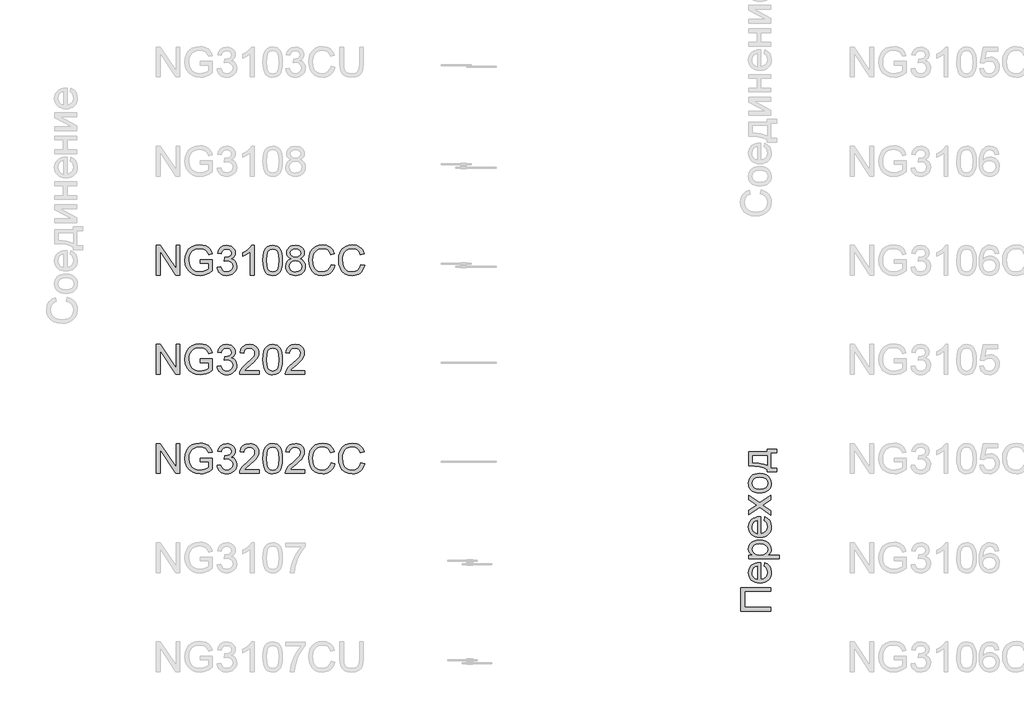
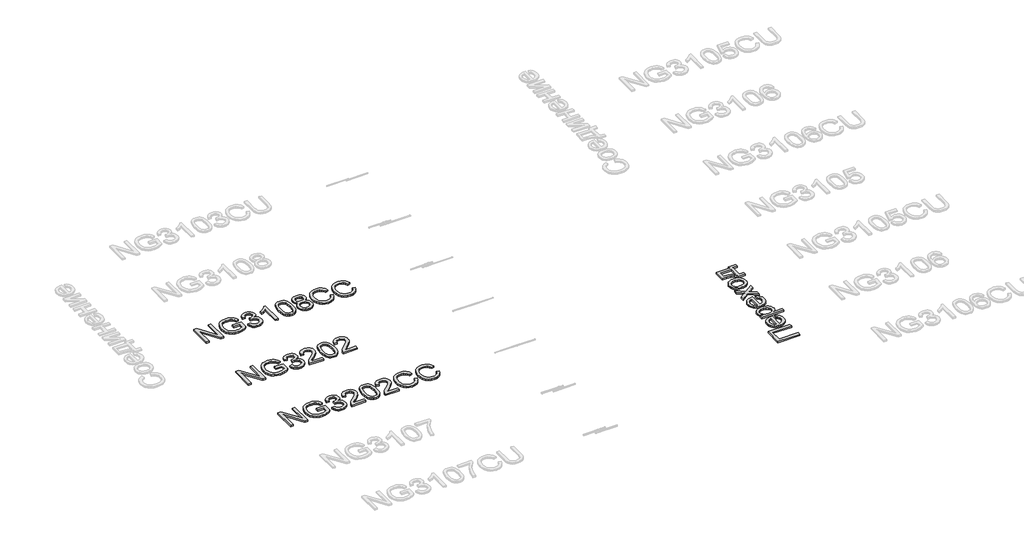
# One storey, part 110 of 124: 4 proxies.
"""IFC4 building model written with IfcOpenShell, lengths in millimetres."""

from ifc_helpers import new_model, si_unit, origin, origin_with_axes, place, context, project, spatial, polyline, outline, extrude, element, save

model = new_model("IFC4")

# Units and contexts
model_context = context("Model", 3, world=origin())
ifc_project = project(units=[si_unit("LENGTHUNIT", "METRE", prefix="MILLI")], contexts=[model_context])

# Site, building, storey
site = spatial("IfcSite", under=ifc_project)
building = spatial("IfcBuilding", under=site)
storey = spatial("IfcBuildingStorey", under=building, Name="Этаж 01", Elevation=0.0)

# Proxies
placement = place(None, origin())
element("IfcBuildingElementProxy", 1, Name="300", ObjectType="300", at=placement, inside=storey, context=model_context, shape_type="SweptSolid", body=[
    extrude(outline(polyline([(49699.8220677, -20519.5141033), (49699.8220677, -20218.1451728), (49740.1419344, -20218.1451728), (49897.5954283, -20456.9005877), (49897.5954283, -20218.1451728), (49935.2665446, -20218.1451728), (49935.2665446, -20519.5141033), (49894.9466779, -20519.5141033), (49737.493184, -20280.685112), (49737.493184, -20519.5141033), (49699.8220677, -20519.5141033)])), origin_with_axes(), (0.0, 0.0, 1.0), 20.0),
    extrude(outline(polyline([(50142.4576843, -20401.7918648), (50142.4576843, -20364.1207485), (50264.8888123, -20364.1207485), (50264.8888123, -20476.7662154), (50235.1363559, -20497.4595776), (50204.4458005, -20512.3036162), (50172.8907223, -20521.2431486), (50140.5446979, -20524.2229928), (50098.2842537, -20519.4865121), (50060.0889056, -20505.27707), (50028.3590835, -20482.0913073), (50005.4952175, -20450.4258646), (49991.6720515, -20412.4420486), (49987.0643295, -20370.301166), (49991.6536574, -20327.8567808), (50005.4216411, -20288.3738457), (50027.7980634, -20255.2552691), (50058.2127074, -20231.9039594), (50095.2584243, -20218.0532023), (50137.5280656, -20213.4362833), (50168.5589118, -20216.1126248), (50196.4627612, -20224.1416493), (50219.9612236, -20236.9439428), (50237.7759092, -20253.9400909), (50250.9552817, -20275.9486313), (50260.5478047, -20303.7881013), (50225.8197444, -20313.5737624), (50218.0666313, -20293.7173317), (50208.6396552, -20278.7353374), (50196.1684556, -20267.4413602), (50179.282672, -20258.6489805), (50159.1503298, -20252.9927948), (50136.9394544, -20251.1073996), (50110.9393944, -20253.1399476), (50088.7101248, -20259.2375917), (50070.3344191, -20268.6369766), (50055.8950508, -20280.5747474), (50036.5076697, -20309.6006368), (50027.6785018, -20338.037915), (50024.7354458, -20368.7560616), (50028.27631, -20404.780906), (50038.8989026, -20434.4229978), (50056.2813269, -20457.4708048), (50080.1016861, -20473.7127949), (50107.9779443, -20483.3421061), (50137.5280656, -20486.5518765), (50163.6200961, -20484.1330524), (50189.0683331, -20476.87658), (50211.1688439, -20466.8793868), (50227.217696, -20456.2384001), (50227.217696, -20401.7918648), (50142.4576843, -20401.7918648)])), origin_with_axes(), (0.0, 0.0, 1.0), 20.0),
    extrude(outline(polyline([(50311.9777077, -20439.4629811), (50349.648824, -20434.7540916), (50358.0825187, -20458.427298), (50370.4341567, -20474.4117707), (50387.3107432, -20483.51685), (50409.3192836, -20486.5518765), (50435.1445997, -20482.3764158), (50455.0838038, -20469.8500339), (50467.8309149, -20451.1616286), (50472.079952, -20428.5000977), (50467.8677031, -20406.988198), (50455.2309566, -20389.5413944), (50436.1010928, -20377.9807027), (50412.4094924, -20374.1271388), (50385.9955651, -20378.2474171), (50390.1894198, -20340.5763008), (50396.2226846, -20341.0177592), (50418.792245, -20338.3138265), (50438.9705724, -20330.2020285), (50453.2076056, -20316.4800301), (50457.9532834, -20296.9454962), (50454.5135867, -20280.6759149), (50444.1944967, -20267.4781484), (50428.4491473, -20258.7317539), (50408.7306724, -20255.8162891), (50388.9754093, -20258.7593451), (50372.8253897, -20267.588513), (50361.0347717, -20282.3037928), (50354.3577135, -20302.9051845), (50316.6865972, -20298.196295), (50327.7782394, -20264.3695455), (50347.5151084, -20239.1144465), (50374.5176468, -20223.3874912), (50407.4062972, -20218.1451728), (50431.0887007, -20220.7295438), (50452.8397236, -20228.4826569), (50471.1786411, -20240.7147332), (50484.624728, -20256.7359941), (50492.8744817, -20275.1944732), (50495.6243997, -20294.7382042), (50493.0124375, -20312.948363), (50485.176551, -20329.4662646), (50472.2271048, -20343.5377509), (50454.2744634, -20354.4086638), (50477.8556993, -20363.9368075), (50495.3300941, -20380.1604035), (50506.1458247, -20402.196535), (50509.7510683, -20429.1622852), (50507.9484465, -20448.2737549), (50502.5405812, -20465.8769084), (50493.5274723, -20481.9717457), (50480.9091199, -20496.5582668), (50465.536251, -20508.6615844), (50448.2595928, -20517.3068113), (50429.0791453, -20522.4939474), (50407.9949084, -20524.2229928), (50388.9386211, -20522.7468663), (50371.5745909, -20518.3184868), (50355.9028179, -20510.9378542), (50341.9233021, -20500.6049687), (50330.201662, -20487.9268354), (50321.3035162, -20473.5104598), (50315.2288648, -20457.3558417), (50311.9777077, -20439.4629811)])), origin_with_axes(), (0.0, 0.0, 1.0), 20.0),
    extrude(outline(polyline([(50683.9799812, -20519.5141033), (50646.3088649, -20519.5141033), (50646.3088649, -20284.6582375), (50610.6243114, -20310.0788834), (50570.9666323, -20329.0983826), (50570.9666323, -20293.4874054), (50600.5535417, -20277.3925681), (50626.1857197, -20258.2443103), (50646.3916383, -20237.8820419), (50659.6997695, -20218.1451728), (50683.9799812, -20218.1451728), (50683.9799812, -20519.5141033)])), origin_with_axes(), (0.0, 0.0, 1.0), 20.0),
    extrude(outline(polyline([(50773.4488824, -20371.2576592), (50776.2171944, -20323.0191326), (50784.5221305, -20284.5478729), (50798.2809171, -20255.2552691), (50817.4107808, -20234.5527098), (50842.0496775, -20222.2470571), (50872.3355627, -20218.1451728), (50895.5489166, -20220.573194), (50916.3342493, -20227.8572575), (50933.7166736, -20239.7122548), (50946.7213021, -20255.8530773), (50956.5437514, -20276.1417694), (50964.3796379, -20300.4403751), (50969.5115917, -20331.2964775), (50971.222243, -20371.2576592), (50968.4815222, -20419.2202743), (50960.2593596, -20457.5995635), (50946.5833464, -20486.9197585), (50927.4810738, -20507.7050912), (50902.7869949, -20520.0935174), (50872.3355627, -20524.2229928), (50851.5870182, -20522.4295681), (50833.1929184, -20517.0492939), (50817.1532634, -20508.0821703), (50803.4680532, -20495.5281972), (50790.334666, -20472.8344766), (50780.9536751, -20444.5581467), (50775.3250806, -20410.6992076), (50773.4488824, -20371.2576592)]), holes=[polyline([(50811.1199987, -20371.1840828), (50815.5345827, -20430.4406752), (50821.0528126, -20450.7086739), (50828.7783345, -20464.7364742), (50848.4968094, -20481.0980259), (50872.3355627, -20486.5518765), (50896.174316, -20481.0796318), (50915.892791, -20464.6628978), (50923.6183128, -20450.6121048), (50929.1365428, -20430.3487047), (50933.5511267, -20371.1840828), (50929.2836956, -20313.2610627), (50923.9494066, -20293.0597426), (50916.4814021, -20278.6985492), (50896.7997154, -20261.5368541), (50871.8941043, -20255.8162891), (50848.3128684, -20260.8562725), (50829.3669457, -20275.9762225), (50821.3839064, -20291.6112072), (50815.6817355, -20312.6908456), (50811.1199987, -20371.1840828)])]), origin_with_axes(), (0.0, 0.0, 1.0), 20.0),
    extrude(outline(polyline([(51059.0724635, -20353.525747), (51038.9033331, -20343.5929332), (51024.7490733, -20330.1284521), (51016.388955, -20313.4082155), (51013.6022489, -20293.7081346), (51015.1197621, -20278.3444628), (51019.6723018, -20264.2591809), (51027.2598679, -20251.452289), (51037.8824606, -20239.9237869), (51051.0296434, -20230.3956433), (51066.1909801, -20223.5898263), (51102.5561153, -20218.1451728), (51139.1419797, -20223.718585), (51154.4688633, -20230.6853503), (51167.8183812, -20240.4388217), (51178.6341119, -20252.1926515), (51186.3596338, -20265.1604918), (51190.9949469, -20279.3423427), (51192.5400513, -20294.7382042), (51189.7901334, -20313.8036886), (51181.5403797, -20330.2388167), (51167.6988196, -20343.6205243), (51148.1734827, -20353.525747), (51171.3592455, -20365.4727148), (51188.235832, -20383.0666712), (51198.5273308, -20405.4614877), (51201.9578304, -20431.8110356), (51200.2563762, -20450.6006085), (51195.1520135, -20467.8266829), (51186.6447424, -20483.4892589), (51174.7345628, -20497.5883363), (51160.0468741, -20509.2409985), (51143.2070758, -20517.5643287), (51124.2151678, -20522.5583268), (51103.0711501, -20524.2229928), (51081.9271324, -20522.551429), (51062.9352244, -20517.5367375), (51046.0954261, -20509.1789185), (51031.4077374, -20497.4779717), (51019.4975578, -20483.280026), (51010.9902867, -20467.4312098), (51005.885924, -20449.9315231), (51004.1844698, -20430.780966), (51007.7529251, -20403.4105456), (51018.4582912, -20380.8961675), (51035.748745, -20364.0103839), (51059.0724635, -20353.525747)]), holes=[polyline([(51051.2733652, -20294.8117806), (51054.6118943, -20311.2561058), (51064.6274816, -20324.389493), (51081.0258215, -20332.9979317), (51103.5126085, -20335.8674113), (51125.4751636, -20333.0163258), (51141.6251832, -20324.4630694), (51151.5579971, -20311.7711406), (51154.868935, -20296.5040378), (51151.4476325, -20280.6575208), (51141.1837248, -20267.5517248), (51124.812976, -20258.750148), (51103.0711501, -20255.8162891), (51081.1913684, -20258.6857687), (51064.8482108, -20267.2942074), (51054.6670766, -20279.9125598), (51051.2733652, -20294.8117806)]), polyline([(51041.8555861, -20429.4565908), (51048.1463682, -20457.8202927), (51056.8559745, -20469.9879897), (51070.4032289, -20479.0470838), (51086.6268249, -20484.6756783), (51103.3654557, -20486.5518765), (51129.0068308, -20482.6063421), (51148.2470591, -20470.7697389), (51160.2768003, -20452.8446887), (51164.2867141, -20430.6338132), (51160.1480416, -20408.0458587), (51147.7320243, -20389.7253354), (51128.0503376, -20377.5852295), (51102.1146569, -20373.5385276), (51076.8319668, -20377.5300472), (51057.7848765, -20389.5046062), (51045.8379087, -20407.4756416), (51041.8555861, -20429.4565908)])]), origin_with_axes(), (0.0, 0.0, 1.0), 20.0),
    extrude(outline(polyline([(51460.946755, -20412.3868663), (51498.6178713, -20422.0989509), (51491.1636624, -20445.5261362), (51481.235447, -20465.99647), (51468.8332253, -20483.5099522), (51453.9569971, -20498.0665829), (51436.9424548, -20509.5100123), (51418.1252908, -20517.6838903), (51397.5055049, -20522.5882172), (51375.0830973, -20524.2229928), (51331.3879134, -20519.27498), (51296.6874442, -20504.4309415), (51270.0895759, -20480.2059121), (51250.7021948, -20447.1149266), (51238.8655916, -20408.2114056), (51234.9200572, -20366.5487697), (51239.3806264, -20322.6052653), (51252.7623339, -20284.6582375), (51274.3662041, -20253.9124998), (51303.4932611, -20231.5728656), (51338.0373804, -20217.9704289), (51375.8924377, -20213.4362833), (51417.1963887, -20219.3040011), (51435.1651249, -20226.6386484), (51451.3450349, -20236.9071546), (51465.4694043, -20249.8382067), (51477.2715185, -20265.1604918), (51493.9089818, -20302.9787609), (51456.2378655, -20311.9550816), (51443.1780546, -20284.4834936), (51425.3357779, -20265.6387384), (51402.490306, -20254.7402343), (51374.4209097, -20251.1073996), (51342.0656883, -20255.1357074), (51315.4862141, -20267.220631), (51295.3170837, -20286.0929773), (51282.1928935, -20310.4835536), (51274.9916035, -20338.0563091), (51272.5911735, -20366.4751933), (51275.4330619, -20401.27683), (51283.9587271, -20431.3695772), (51298.4900659, -20455.6038036), (51319.3489751, -20472.8298781), (51344.3557537, -20483.1213769), (51371.330701, -20486.5518765), (51402.7754145, -20481.8797752), (51428.9778096, -20467.8634711), (51448.7606639, -20444.6501172), (51460.946755, -20412.3868663)])), origin_with_axes(), (0.0, 0.0, 1.0), 20.0),
    extrude(outline(polyline([(51762.3156855, -20412.3868663), (51799.9868018, -20422.0989509), (51792.5325928, -20445.5261362), (51782.6043775, -20465.99647), (51770.2021557, -20483.5099522), (51755.3259275, -20498.0665829), (51738.3113853, -20509.5100123), (51719.4942212, -20517.6838903), (51698.8744354, -20522.5882172), (51676.4520278, -20524.2229928), (51632.7568438, -20519.27498), (51598.0563746, -20504.4309415), (51571.4585064, -20480.2059121), (51552.0711252, -20447.1149266), (51540.234522, -20408.2114056), (51536.2889876, -20366.5487697), (51540.7495568, -20322.6052653), (51554.1312644, -20284.6582375), (51575.7351345, -20253.9124998), (51604.8621915, -20231.5728656), (51639.4063109, -20217.9704289), (51677.2613682, -20213.4362833), (51718.5653192, -20219.3040011), (51736.5340554, -20226.6386484), (51752.7139654, -20236.9071546), (51766.8383347, -20249.8382067), (51778.640449, -20265.1604918), (51795.2779122, -20302.9787609), (51757.6067959, -20311.9550816), (51744.5469851, -20284.4834936), (51726.7047083, -20265.6387384), (51703.8592364, -20254.7402343), (51675.7898402, -20251.1073996), (51643.4346187, -20255.1357074), (51616.8551446, -20267.220631), (51596.6860142, -20286.0929773), (51583.561824, -20310.4835536), (51576.3605339, -20338.0563091), (51573.9601039, -20366.4751933), (51576.8019923, -20401.27683), (51585.3276576, -20431.3695772), (51599.8589964, -20455.6038036), (51620.7179055, -20472.8298781), (51645.7246841, -20483.1213769), (51672.6996314, -20486.5518765), (51704.144345, -20481.8797752), (51730.3467401, -20467.8634711), (51750.1295944, -20444.6501172), (51762.3156855, -20412.3868663)])), origin_with_axes(), (0.0, 0.0, 1.0), 20.0),
])
element("IfcBuildingElementProxy", 2, Name="300", ObjectType="300", at=placement, inside=storey, context=model_context, shape_type="SweptSolid", body=[
    extrude(outline(polyline([(49699.8220677, -21519.5141033), (49699.8220677, -21218.1451728), (49740.1419344, -21218.1451728), (49897.5954283, -21456.9005877), (49897.5954283, -21218.1451728), (49935.2665446, -21218.1451728), (49935.2665446, -21519.5141033), (49894.9466779, -21519.5141033), (49737.493184, -21280.685112), (49737.493184, -21519.5141033), (49699.8220677, -21519.5141033)])), origin_with_axes(), (0.0, 0.0, 1.0), 20.0),
    extrude(outline(polyline([(50142.4576843, -21401.7918648), (50142.4576843, -21364.1207485), (50264.8888123, -21364.1207485), (50264.8888123, -21476.7662154), (50235.1363559, -21497.4595776), (50204.4458005, -21512.3036162), (50172.8907223, -21521.2431486), (50140.5446979, -21524.2229928), (50098.2842537, -21519.4865121), (50060.0889056, -21505.27707), (50028.3590835, -21482.0913073), (50005.4952175, -21450.4258646), (49991.6720515, -21412.4420486), (49987.0643295, -21370.301166), (49991.6536574, -21327.8567808), (50005.4216411, -21288.3738457), (50027.7980634, -21255.2552691), (50058.2127074, -21231.9039594), (50095.2584243, -21218.0532023), (50137.5280656, -21213.4362833), (50168.5589118, -21216.1126248), (50196.4627612, -21224.1416493), (50219.9612236, -21236.9439428), (50237.7759092, -21253.9400909), (50250.9552817, -21275.9486313), (50260.5478047, -21303.7881013), (50225.8197444, -21313.5737624), (50218.0666313, -21293.7173317), (50208.6396552, -21278.7353374), (50196.1684556, -21267.4413602), (50179.282672, -21258.6489805), (50159.1503298, -21252.9927948), (50136.9394544, -21251.1073996), (50110.9393944, -21253.1399476), (50088.7101248, -21259.2375917), (50070.3344191, -21268.6369766), (50055.8950508, -21280.5747474), (50036.5076697, -21309.6006368), (50027.6785018, -21338.037915), (50024.7354458, -21368.7560616), (50028.27631, -21404.780906), (50038.8989026, -21434.4229978), (50056.2813269, -21457.4708048), (50080.1016861, -21473.7127949), (50107.9779443, -21483.3421061), (50137.5280656, -21486.5518765), (50163.6200961, -21484.1330524), (50189.0683331, -21476.87658), (50211.1688439, -21466.8793868), (50227.217696, -21456.2384001), (50227.217696, -21401.7918648), (50142.4576843, -21401.7918648)])), origin_with_axes(), (0.0, 0.0, 1.0), 20.0),
    extrude(outline(polyline([(50311.9777077, -21439.4629811), (50349.648824, -21434.7540916), (50358.0825187, -21458.427298), (50370.4341567, -21474.4117707), (50387.3107432, -21483.51685), (50409.3192836, -21486.5518765), (50435.1445997, -21482.3764158), (50455.0838038, -21469.8500339), (50467.8309149, -21451.1616286), (50472.079952, -21428.5000977), (50467.8677031, -21406.988198), (50455.2309566, -21389.5413944), (50436.1010928, -21377.9807027), (50412.4094924, -21374.1271388), (50385.9955651, -21378.2474171), (50390.1894198, -21340.5763008), (50396.2226846, -21341.0177592), (50418.792245, -21338.3138265), (50438.9705724, -21330.2020285), (50453.2076056, -21316.4800301), (50457.9532834, -21296.9454962), (50454.5135867, -21280.6759149), (50444.1944967, -21267.4781484), (50428.4491473, -21258.7317539), (50408.7306724, -21255.8162891), (50388.9754093, -21258.7593451), (50372.8253897, -21267.588513), (50361.0347717, -21282.3037928), (50354.3577135, -21302.9051845), (50316.6865972, -21298.196295), (50327.7782394, -21264.3695455), (50347.5151084, -21239.1144465), (50374.5176468, -21223.3874912), (50407.4062972, -21218.1451728), (50431.0887007, -21220.7295438), (50452.8397236, -21228.4826569), (50471.1786411, -21240.7147332), (50484.624728, -21256.7359941), (50492.8744817, -21275.1944732), (50495.6243997, -21294.7382042), (50493.0124375, -21312.948363), (50485.176551, -21329.4662646), (50472.2271048, -21343.5377509), (50454.2744634, -21354.4086638), (50477.8556993, -21363.9368075), (50495.3300941, -21380.1604035), (50506.1458247, -21402.196535), (50509.7510683, -21429.1622852), (50507.9484465, -21448.2737549), (50502.5405812, -21465.8769084), (50493.5274723, -21481.9717457), (50480.9091199, -21496.5582668), (50465.536251, -21508.6615844), (50448.2595928, -21517.3068113), (50429.0791453, -21522.4939474), (50407.9949084, -21524.2229928), (50388.9386211, -21522.7468663), (50371.5745909, -21518.3184868), (50355.9028179, -21510.9378542), (50341.9233021, -21500.6049687), (50330.201662, -21487.9268354), (50321.3035162, -21473.5104598), (50315.2288648, -21457.3558417), (50311.9777077, -21439.4629811)])), origin_with_axes(), (0.0, 0.0, 1.0), 20.0),
    extrude(outline(polyline([(50735.7777661, -21481.842987), (50735.7777661, -21519.5141033), (50538.0044055, -21519.5141033), (50542.0511075, -21493.5416344), (50551.3401278, -21473.2437453), (50564.9333676, -21453.5528615), (50584.5966602, -21432.9422727), (50612.0958393, -21409.8852687), (50652.7467998, -21373.7776509), (50677.1373761, -21347.1246003), (50689.3326642, -21325.493139), (50693.3977603, -21304.4502889), (50689.5625905, -21285.5871396), (50678.0570811, -21269.9061695), (50660.3711542, -21259.3387592), (50637.9947318, -21255.8162891), (50614.4962694, -21259.2559858), (50596.2401253, -21269.5750757), (50584.4587044, -21285.9642186), (50580.3844113, -21307.614074), (50542.713295, -21302.9051845), (50551.8459656, -21266.4664729), (50560.3923242, -21251.9305355), (50571.5920317, -21239.8502105), (50585.1875706, -21230.3542565), (50600.9214237, -21223.5714322), (50638.8040722, -21218.1451728), (50658.9938959, -21219.653489), (50676.9626321, -21224.1784375), (50692.7102808, -21231.7200184), (50706.2368419, -21242.2782317), (50717.1008571, -21255.0713281), (50724.8608679, -21269.3175583), (50729.5168744, -21285.0169225), (50731.0688766, -21302.1694205), (50729.3950135, -21320.1864412), (50724.3734243, -21337.8907622), (50715.4614829, -21355.8985859), (50702.1165636, -21374.8261146), (50680.8437872, -21397.4232661), (50648.1482749, -21426.4399585), (50604.8117758, -21462.676335), (50587.8156277, -21481.842987), (50735.7777661, -21481.842987)])), origin_with_axes(), (0.0, 0.0, 1.0), 20.0),
    extrude(outline(polyline([(50773.4488824, -21371.2576592), (50776.2171944, -21323.0191326), (50784.5221305, -21284.5478729), (50798.2809171, -21255.2552691), (50817.4107808, -21234.5527098), (50842.0496775, -21222.2470571), (50872.3355627, -21218.1451728), (50895.5489166, -21220.573194), (50916.3342493, -21227.8572575), (50933.7166736, -21239.7122548), (50946.7213021, -21255.8530773), (50956.5437514, -21276.1417694), (50964.3796379, -21300.4403751), (50969.5115917, -21331.2964775), (50971.222243, -21371.2576592), (50968.4815222, -21419.2202743), (50960.2593596, -21457.5995635), (50946.5833464, -21486.9197585), (50927.4810738, -21507.7050912), (50902.7869949, -21520.0935174), (50872.3355627, -21524.2229928), (50851.5870182, -21522.4295681), (50833.1929184, -21517.0492939), (50817.1532634, -21508.0821703), (50803.4680532, -21495.5281972), (50790.334666, -21472.8344766), (50780.9536751, -21444.5581467), (50775.3250806, -21410.6992076), (50773.4488824, -21371.2576592)]), holes=[polyline([(50811.1199987, -21371.1840828), (50815.5345827, -21430.4406752), (50821.0528126, -21450.7086739), (50828.7783345, -21464.7364742), (50848.4968094, -21481.0980259), (50872.3355627, -21486.5518765), (50896.174316, -21481.0796318), (50915.892791, -21464.6628978), (50923.6183128, -21450.6121048), (50929.1365428, -21430.3487047), (50933.5511267, -21371.1840828), (50929.2836956, -21313.2610627), (50923.9494066, -21293.0597426), (50916.4814021, -21278.6985492), (50896.7997154, -21261.5368541), (50871.8941043, -21255.8162891), (50848.3128684, -21260.8562725), (50829.3669457, -21275.9762225), (50821.3839064, -21291.6112072), (50815.6817355, -21312.6908456), (50811.1199987, -21371.1840828)])]), origin_with_axes(), (0.0, 0.0, 1.0), 20.0),
    extrude(outline(polyline([(51197.2489409, -21481.842987), (51197.2489409, -21519.5141033), (50999.4755803, -21519.5141033), (51003.5222822, -21493.5416344), (51012.8113026, -21473.2437453), (51026.4045423, -21453.5528615), (51046.0678349, -21432.9422727), (51073.5670141, -21409.8852687), (51114.2179746, -21373.7776509), (51138.6085508, -21347.1246003), (51150.803839, -21325.493139), (51154.868935, -21304.4502889), (51151.0337652, -21285.5871396), (51139.5282558, -21269.9061695), (51121.8423289, -21259.3387592), (51099.4659065, -21255.8162891), (51075.9674441, -21259.2559858), (51057.7113001, -21269.5750757), (51045.9298792, -21285.9642186), (51041.8555861, -21307.614074), (51004.1844698, -21302.9051845), (51013.3171403, -21266.4664729), (51021.8634989, -21251.9305355), (51033.0632064, -21239.8502105), (51046.6587454, -21230.3542565), (51062.3925985, -21223.5714322), (51100.2752469, -21218.1451728), (51120.4650707, -21219.653489), (51138.4338069, -21224.1784375), (51154.1814555, -21231.7200184), (51167.7080166, -21242.2782317), (51178.5720318, -21255.0713281), (51186.3320427, -21269.3175583), (51190.9880492, -21285.0169225), (51192.5400513, -21302.1694205), (51190.8661882, -21320.1864412), (51185.844599, -21337.8907622), (51176.9326577, -21355.8985859), (51163.5877383, -21374.8261146), (51142.3149619, -21397.4232661), (51109.6194496, -21426.4399585), (51066.2829506, -21462.676335), (51049.2868024, -21481.842987), (51197.2489409, -21481.842987)])), origin_with_axes(), (0.0, 0.0, 1.0), 20.0),
])
element("IfcBuildingElementProxy", 3, Name="300", ObjectType="300", at=placement, inside=storey, context=model_context, shape_type="SweptSolid", body=[
    extrude(outline(polyline([(49699.8220677, -22519.5141033), (49699.8220677, -22218.1451728), (49740.1419344, -22218.1451728), (49897.5954283, -22456.9005877), (49897.5954283, -22218.1451728), (49935.2665446, -22218.1451728), (49935.2665446, -22519.5141033), (49894.9466779, -22519.5141033), (49737.493184, -22280.685112), (49737.493184, -22519.5141033), (49699.8220677, -22519.5141033)])), origin_with_axes(), (0.0, 0.0, 1.0), 20.0),
    extrude(outline(polyline([(50142.4576843, -22401.7918648), (50142.4576843, -22364.1207485), (50264.8888123, -22364.1207485), (50264.8888123, -22476.7662154), (50235.1363559, -22497.4595776), (50204.4458005, -22512.3036162), (50172.8907223, -22521.2431486), (50140.5446979, -22524.2229928), (50098.2842537, -22519.4865121), (50060.0889056, -22505.27707), (50028.3590835, -22482.0913073), (50005.4952175, -22450.4258646), (49991.6720515, -22412.4420486), (49987.0643295, -22370.301166), (49991.6536574, -22327.8567808), (50005.4216411, -22288.3738457), (50027.7980634, -22255.2552691), (50058.2127074, -22231.9039594), (50095.2584243, -22218.0532023), (50137.5280656, -22213.4362833), (50168.5589118, -22216.1126248), (50196.4627612, -22224.1416493), (50219.9612236, -22236.9439428), (50237.7759092, -22253.9400909), (50250.9552817, -22275.9486313), (50260.5478047, -22303.7881013), (50225.8197444, -22313.5737624), (50218.0666313, -22293.7173317), (50208.6396552, -22278.7353374), (50196.1684556, -22267.4413602), (50179.282672, -22258.6489805), (50159.1503298, -22252.9927948), (50136.9394544, -22251.1073996), (50110.9393944, -22253.1399476), (50088.7101248, -22259.2375917), (50070.3344191, -22268.6369766), (50055.8950508, -22280.5747474), (50036.5076697, -22309.6006368), (50027.6785018, -22338.037915), (50024.7354458, -22368.7560616), (50028.27631, -22404.780906), (50038.8989026, -22434.4229978), (50056.2813269, -22457.4708048), (50080.1016861, -22473.7127949), (50107.9779443, -22483.3421061), (50137.5280656, -22486.5518765), (50163.6200961, -22484.1330524), (50189.0683331, -22476.87658), (50211.1688439, -22466.8793868), (50227.217696, -22456.2384001), (50227.217696, -22401.7918648), (50142.4576843, -22401.7918648)])), origin_with_axes(), (0.0, 0.0, 1.0), 20.0),
    extrude(outline(polyline([(50311.9777077, -22439.4629811), (50349.648824, -22434.7540916), (50358.0825187, -22458.427298), (50370.4341567, -22474.4117707), (50387.3107432, -22483.51685), (50409.3192836, -22486.5518765), (50435.1445997, -22482.3764158), (50455.0838038, -22469.8500339), (50467.8309149, -22451.1616286), (50472.079952, -22428.5000977), (50467.8677031, -22406.988198), (50455.2309566, -22389.5413944), (50436.1010928, -22377.9807027), (50412.4094924, -22374.1271388), (50385.9955651, -22378.2474171), (50390.1894198, -22340.5763008), (50396.2226846, -22341.0177592), (50418.792245, -22338.3138265), (50438.9705724, -22330.2020285), (50453.2076056, -22316.4800301), (50457.9532834, -22296.9454962), (50454.5135867, -22280.6759149), (50444.1944967, -22267.4781484), (50428.4491473, -22258.7317539), (50408.7306724, -22255.8162891), (50388.9754093, -22258.7593451), (50372.8253897, -22267.588513), (50361.0347717, -22282.3037928), (50354.3577135, -22302.9051845), (50316.6865972, -22298.196295), (50327.7782394, -22264.3695455), (50347.5151084, -22239.1144465), (50374.5176468, -22223.3874912), (50407.4062972, -22218.1451728), (50431.0887007, -22220.7295438), (50452.8397236, -22228.4826569), (50471.1786411, -22240.7147332), (50484.624728, -22256.7359941), (50492.8744817, -22275.1944732), (50495.6243997, -22294.7382042), (50493.0124375, -22312.948363), (50485.176551, -22329.4662646), (50472.2271048, -22343.5377509), (50454.2744634, -22354.4086638), (50477.8556993, -22363.9368075), (50495.3300941, -22380.1604035), (50506.1458247, -22402.196535), (50509.7510683, -22429.1622852), (50507.9484465, -22448.2737549), (50502.5405812, -22465.8769084), (50493.5274723, -22481.9717457), (50480.9091199, -22496.5582668), (50465.536251, -22508.6615844), (50448.2595928, -22517.3068113), (50429.0791453, -22522.4939474), (50407.9949084, -22524.2229928), (50388.9386211, -22522.7468663), (50371.5745909, -22518.3184868), (50355.9028179, -22510.9378542), (50341.9233021, -22500.6049687), (50330.201662, -22487.9268354), (50321.3035162, -22473.5104598), (50315.2288648, -22457.3558417), (50311.9777077, -22439.4629811)])), origin_with_axes(), (0.0, 0.0, 1.0), 20.0),
    extrude(outline(polyline([(50735.7777661, -22481.842987), (50735.7777661, -22519.5141033), (50538.0044055, -22519.5141033), (50542.0511075, -22493.5416344), (50551.3401278, -22473.2437453), (50564.9333676, -22453.5528615), (50584.5966602, -22432.9422727), (50612.0958393, -22409.8852687), (50652.7467998, -22373.7776509), (50677.1373761, -22347.1246003), (50689.3326642, -22325.493139), (50693.3977603, -22304.4502889), (50689.5625905, -22285.5871396), (50678.0570811, -22269.9061695), (50660.3711542, -22259.3387592), (50637.9947318, -22255.8162891), (50614.4962694, -22259.2559858), (50596.2401253, -22269.5750757), (50584.4587044, -22285.9642186), (50580.3844113, -22307.614074), (50542.713295, -22302.9051845), (50551.8459656, -22266.4664729), (50560.3923242, -22251.9305355), (50571.5920317, -22239.8502105), (50585.1875706, -22230.3542565), (50600.9214237, -22223.5714322), (50638.8040722, -22218.1451728), (50658.9938959, -22219.653489), (50676.9626321, -22224.1784375), (50692.7102808, -22231.7200184), (50706.2368419, -22242.2782317), (50717.1008571, -22255.0713281), (50724.8608679, -22269.3175583), (50729.5168744, -22285.0169225), (50731.0688766, -22302.1694205), (50729.3950135, -22320.1864412), (50724.3734243, -22337.8907622), (50715.4614829, -22355.8985859), (50702.1165636, -22374.8261146), (50680.8437872, -22397.4232661), (50648.1482749, -22426.4399585), (50604.8117758, -22462.676335), (50587.8156277, -22481.842987), (50735.7777661, -22481.842987)])), origin_with_axes(), (0.0, 0.0, 1.0), 20.0),
    extrude(outline(polyline([(50773.4488824, -22371.2576592), (50776.2171944, -22323.0191326), (50784.5221305, -22284.5478729), (50798.2809171, -22255.2552691), (50817.4107808, -22234.5527098), (50842.0496775, -22222.2470571), (50872.3355627, -22218.1451728), (50895.5489166, -22220.573194), (50916.3342493, -22227.8572575), (50933.7166736, -22239.7122548), (50946.7213021, -22255.8530773), (50956.5437514, -22276.1417694), (50964.3796379, -22300.4403751), (50969.5115917, -22331.2964775), (50971.222243, -22371.2576592), (50968.4815222, -22419.2202743), (50960.2593596, -22457.5995635), (50946.5833464, -22486.9197585), (50927.4810738, -22507.7050912), (50902.7869949, -22520.0935174), (50872.3355627, -22524.2229928), (50851.5870182, -22522.4295681), (50833.1929184, -22517.0492939), (50817.1532634, -22508.0821703), (50803.4680532, -22495.5281972), (50790.334666, -22472.8344766), (50780.9536751, -22444.5581467), (50775.3250806, -22410.6992076), (50773.4488824, -22371.2576592)]), holes=[polyline([(50811.1199987, -22371.1840828), (50815.5345827, -22430.4406752), (50821.0528126, -22450.7086739), (50828.7783345, -22464.7364742), (50848.4968094, -22481.0980259), (50872.3355627, -22486.5518765), (50896.174316, -22481.0796318), (50915.892791, -22464.6628978), (50923.6183128, -22450.6121048), (50929.1365428, -22430.3487047), (50933.5511267, -22371.1840828), (50929.2836956, -22313.2610627), (50923.9494066, -22293.0597426), (50916.4814021, -22278.6985492), (50896.7997154, -22261.5368541), (50871.8941043, -22255.8162891), (50848.3128684, -22260.8562725), (50829.3669457, -22275.9762225), (50821.3839064, -22291.6112072), (50815.6817355, -22312.6908456), (50811.1199987, -22371.1840828)])]), origin_with_axes(), (0.0, 0.0, 1.0), 20.0),
    extrude(outline(polyline([(51197.2489409, -22481.842987), (51197.2489409, -22519.5141033), (50999.4755803, -22519.5141033), (51003.5222822, -22493.5416344), (51012.8113026, -22473.2437453), (51026.4045423, -22453.5528615), (51046.0678349, -22432.9422727), (51073.5670141, -22409.8852687), (51114.2179746, -22373.7776509), (51138.6085508, -22347.1246003), (51150.803839, -22325.493139), (51154.868935, -22304.4502889), (51151.0337652, -22285.5871396), (51139.5282558, -22269.9061695), (51121.8423289, -22259.3387592), (51099.4659065, -22255.8162891), (51075.9674441, -22259.2559858), (51057.7113001, -22269.5750757), (51045.9298792, -22285.9642186), (51041.8555861, -22307.614074), (51004.1844698, -22302.9051845), (51013.3171403, -22266.4664729), (51021.8634989, -22251.9305355), (51033.0632064, -22239.8502105), (51046.6587454, -22230.3542565), (51062.3925985, -22223.5714322), (51100.2752469, -22218.1451728), (51120.4650707, -22219.653489), (51138.4338069, -22224.1784375), (51154.1814555, -22231.7200184), (51167.7080166, -22242.2782317), (51178.5720318, -22255.0713281), (51186.3320427, -22269.3175583), (51190.9880492, -22285.0169225), (51192.5400513, -22302.1694205), (51190.8661882, -22320.1864412), (51185.844599, -22337.8907622), (51176.9326577, -22355.8985859), (51163.5877383, -22374.8261146), (51142.3149619, -22397.4232661), (51109.6194496, -22426.4399585), (51066.2829506, -22462.676335), (51049.2868024, -22481.842987), (51197.2489409, -22481.842987)])), origin_with_axes(), (0.0, 0.0, 1.0), 20.0),
    extrude(outline(polyline([(51460.946755, -22412.3868663), (51498.6178713, -22422.0989509), (51491.1636624, -22445.5261362), (51481.235447, -22465.99647), (51468.8332253, -22483.5099522), (51453.9569971, -22498.0665829), (51436.9424548, -22509.5100123), (51418.1252908, -22517.6838903), (51397.5055049, -22522.5882172), (51375.0830973, -22524.2229928), (51331.3879134, -22519.27498), (51296.6874442, -22504.4309415), (51270.0895759, -22480.2059121), (51250.7021948, -22447.1149266), (51238.8655916, -22408.2114056), (51234.9200572, -22366.5487697), (51239.3806264, -22322.6052653), (51252.7623339, -22284.6582375), (51274.3662041, -22253.9124998), (51303.4932611, -22231.5728656), (51338.0373804, -22217.9704289), (51375.8924377, -22213.4362833), (51417.1963887, -22219.3040011), (51435.1651249, -22226.6386484), (51451.3450349, -22236.9071546), (51465.4694043, -22249.8382067), (51477.2715185, -22265.1604918), (51493.9089818, -22302.9787609), (51456.2378655, -22311.9550816), (51443.1780546, -22284.4834936), (51425.3357779, -22265.6387384), (51402.490306, -22254.7402343), (51374.4209097, -22251.1073996), (51342.0656883, -22255.1357074), (51315.4862141, -22267.220631), (51295.3170837, -22286.0929773), (51282.1928935, -22310.4835536), (51274.9916035, -22338.0563091), (51272.5911735, -22366.4751933), (51275.4330619, -22401.27683), (51283.9587271, -22431.3695772), (51298.4900659, -22455.6038036), (51319.3489751, -22472.8298781), (51344.3557537, -22483.1213769), (51371.330701, -22486.5518765), (51402.7754145, -22481.8797752), (51428.9778096, -22467.8634711), (51448.7606639, -22444.6501172), (51460.946755, -22412.3868663)])), origin_with_axes(), (0.0, 0.0, 1.0), 20.0),
    extrude(outline(polyline([(51762.3156855, -22412.3868663), (51799.9868018, -22422.0989509), (51792.5325928, -22445.5261362), (51782.6043775, -22465.99647), (51770.2021557, -22483.5099522), (51755.3259275, -22498.0665829), (51738.3113853, -22509.5100123), (51719.4942212, -22517.6838903), (51698.8744354, -22522.5882172), (51676.4520278, -22524.2229928), (51632.7568438, -22519.27498), (51598.0563746, -22504.4309415), (51571.4585064, -22480.2059121), (51552.0711252, -22447.1149266), (51540.234522, -22408.2114056), (51536.2889876, -22366.5487697), (51540.7495568, -22322.6052653), (51554.1312644, -22284.6582375), (51575.7351345, -22253.9124998), (51604.8621915, -22231.5728656), (51639.4063109, -22217.9704289), (51677.2613682, -22213.4362833), (51718.5653192, -22219.3040011), (51736.5340554, -22226.6386484), (51752.7139654, -22236.9071546), (51766.8383347, -22249.8382067), (51778.640449, -22265.1604918), (51795.2779122, -22302.9787609), (51757.6067959, -22311.9550816), (51744.5469851, -22284.4834936), (51726.7047083, -22265.6387384), (51703.8592364, -22254.7402343), (51675.7898402, -22251.1073996), (51643.4346187, -22255.1357074), (51616.8551446, -22267.220631), (51596.6860142, -22286.0929773), (51583.561824, -22310.4835536), (51576.3605339, -22338.0563091), (51573.9601039, -22366.4751933), (51576.8019923, -22401.27683), (51585.3276576, -22431.3695772), (51599.8589964, -22455.6038036), (51620.7179055, -22472.8298781), (51645.7246841, -22483.1213769), (51672.6996314, -22486.5518765), (51704.144345, -22481.8797752), (51730.3467401, -22467.8634711), (51750.1295944, -22444.6501172), (51762.3156855, -22412.3868663)])), origin_with_axes(), (0.0, 0.0, 1.0), 20.0),
])
element("IfcBuildingElementProxy", 4, Name="300", ObjectType="300", at=placement, inside=storey, context=model_context, shape_type="SweptSolid", body=[
    extrude(outline(polyline([(55595.8073128, -23908.4503527), (55595.8073128, -23673.0058758), (55897.1762432, -23673.0058758), (55897.1762432, -23710.6769921), (55633.4784291, -23710.6769921), (55633.4784291, -23870.7792364), (55897.1762432, -23870.7792364), (55897.1762432, -23908.4503527), (55595.8073128, -23908.4503527)])), origin_with_axes(), (0.0, 0.0, 1.0), 20.0),
    extrude(outline(polyline([(55831.2517897, -23456.8384154), (55835.9606792, -23419.9030631), (55863.7909522, -23433.2111943), (55884.594679, -23454.4471824), (55897.5625193, -23483.132781), (55901.8851328, -23518.7897434), (55900.0204309, -23542.1640457), (55894.4263253, -23562.9907651), (55885.102816, -23581.2699018), (55872.049903, -23597.0014556), (55855.6308697, -23609.6519977), (55836.2089996, -23618.6880992), (55813.7842927, -23624.1097601), (55788.3567491, -23625.9169804), (55762.066982, -23624.091366), (55738.8950148, -23618.6145228), (55718.8408475, -23609.4864508), (55701.9044802, -23596.70715), (55688.4491962, -23581.0169829), (55678.8382791, -23563.156312), (55673.0717288, -23543.1251374), (55671.1495454, -23520.923459), (55673.0671303, -23499.4368512), (55678.819885, -23480.0057841), (55688.4078095, -23462.6302576), (55701.8309038, -23447.3102717), (55718.7304829, -23434.8045832), (55738.747862, -23425.8719485), (55761.883041, -23420.5123677), (55788.1360199, -23418.7258407), (55798.2895629, -23418.9465699), (55798.2895629, -23588.2458641), (55826.4877179, -23581.7251557), (55847.2178683, -23566.5776146), (55859.9649794, -23544.716227), (55864.2140165, -23518.0539794), (55862.2458478, -23498.0044107), (55856.3413418, -23481.1186271), (55846.1326164, -23467.3966287), (55831.2517897, -23456.8384154)]), holes=[polyline([(55760.6184466, -23588.2458641), (55760.6184466, -23456.396957), (55740.7160307, -23461.4921227), (55726.4789975, -23471.4801188), (55713.2352456, -23493.4426739), (55708.8206617, -23521.0706118), (55712.3431318, -23546.4636665), (55722.9105421, -23567.4605314), (55739.3824585, -23582.0562495), (55760.6184466, -23588.2458641)])]), origin_with_axes(), (0.0, 0.0, 1.0), 20.0),
    extrude(outline(polyline([(55981.9362549, -23381.0547244), (55675.8584349, -23381.0547244), (55675.8584349, -23343.3836081), (55712.7937873, -23343.3836081), (55694.5744314, -23331.0963495), (55681.5606059, -23317.3375628), (55673.7523105, -23301.2979079), (55671.1495454, -23282.1680441), (55674.7915772, -23256.6922159), (55685.7176724, -23234.4169611), (55703.2656436, -23216.2803788), (55726.7733031, -23203.2205679), (55754.5299996, -23195.3294991), (55784.8250819, -23192.6991429), (55817.0423476, -23195.66979), (55845.8567049, -23204.5817313), (55869.8058228, -23219.1498583), (55887.4273704, -23239.0890625), (55898.2706922, -23262.3116134), (55901.8851328, -23286.7297808), (55899.4663087, -23304.0478258), (55892.2098363, -23319.5080666), (55881.2561499, -23332.7426214), (55867.7456836, -23343.3836081), (55981.9362549, -23343.3836081), (55981.9362549, -23381.0547244)]), holes=[polyline([(55788.2831727, -23343.3836081), (55822.0547398, -23339.309315), (55845.6727639, -23327.0864357), (55859.5787033, -23309.0510209), (55864.2140165, -23287.5391212), (55859.4131564, -23265.6777337), (55845.0105763, -23247.1824664), (55820.5280295, -23234.573311), (55785.4872695, -23230.3702592), (55751.8996433, -23234.4721434), (55727.9505255, -23246.7777962), (55713.6031276, -23264.7856198), (55708.8206617, -23285.9940169), (55713.9066303, -23307.2851873), (55729.164536, -23325.9827897), (55754.1161324, -23339.0334035), (55788.2831727, -23343.3836081)])]), origin_with_axes(), (0.0, 0.0, 1.0), 20.0),
    extrude(outline(polyline([(55831.2517897, -22995.3672407), (55835.9606792, -22958.4318883), (55863.7909522, -22971.7400195), (55884.594679, -22992.9760077), (55897.5625193, -23021.6616063), (55901.8851328, -23057.3185687), (55900.0204309, -23080.6928709), (55894.4263253, -23101.5195904), (55885.102816, -23119.798727), (55872.049903, -23135.5302808), (55855.6308697, -23148.1808229), (55836.2089996, -23157.2169244), (55813.7842927, -23162.6385853), (55788.3567491, -23164.4458056), (55762.066982, -23162.6201912), (55738.8950148, -23157.143348), (55718.8408475, -23148.015276), (55701.9044802, -23135.2359752), (55688.4491962, -23119.5458081), (55678.8382791, -23101.6851373), (55673.0717288, -23081.6539626), (55671.1495454, -23059.4522842), (55673.0671303, -23037.9656764), (55678.819885, -23018.5346093), (55688.4078095, -23001.1590828), (55701.8309038, -22985.839097), (55718.7304829, -22973.3334084), (55738.747862, -22964.4007737), (55761.883041, -22959.0411929), (55788.1360199, -22957.254666), (55798.2895629, -22957.4753952), (55798.2895629, -23126.7746893), (55826.4877179, -23120.253981), (55847.2178683, -23105.1064398), (55859.9649794, -23083.2450523), (55864.2140165, -23056.5828047), (55862.2458478, -23036.5332359), (55856.3413418, -23019.6474523), (55846.1326164, -23005.9254539), (55831.2517897, -22995.3672407)]), holes=[polyline([(55760.6184466, -23126.7746893), (55760.6184466, -22994.9257823), (55740.7160307, -23000.0209479), (55726.4789975, -23010.0089441), (55713.2352456, -23031.9714992), (55708.8206617, -23059.599437), (55712.3431318, -23084.9924917), (55722.9105421, -23105.9893566), (55739.3824585, -23120.5850748), (55760.6184466, -23126.7746893)])]), origin_with_axes(), (0.0, 0.0, 1.0), 20.0),
    extrude(outline(polyline([(55897.1762432, -22943.1279973), (55785.9287279, -22862.6354168), (55675.8584349, -22938.4191078), (55675.8584349, -22893.096046), (55728.8334422, -22856.5285757), (55753.8494179, -22839.4588511), (55733.395179, -22824.6699949), (55675.8584349, -22783.025753), (55675.8584349, -22737.7026912), (55785.9287279, -22817.312355), (55897.1762432, -22740.6457472), (55897.1762432, -22785.968809), (55830.2952965, -22832.1012112), (55818.0816143, -22840.5624971), (55897.1762432, -22897.8049355), (55897.1762432, -22943.1279973)])), origin_with_axes(), (0.0, 0.0, 1.0), 20.0),
    extrude(outline(polyline([(55786.5173391, -22717.1012995), (55757.8547331, -22715.064153), (55733.1560557, -22708.9527133), (55712.4213067, -22698.7669806), (55695.6504863, -22684.5069547), (55684.9313246, -22670.1503599), (55677.2747806, -22654.3038429), (55672.6808542, -22636.9674039), (55671.1495454, -22618.1410428), (55673.0142473, -22597.3580093), (55678.6083529, -22578.5661372), (55687.9318622, -22561.7654263), (55700.9847752, -22546.9558767), (55717.3256336, -22534.8686539), (55736.5129789, -22526.2349234), (55758.5468111, -22521.054685), (55783.4271303, -22519.3279389), (55821.4845227, -22522.3813595), (55850.4552298, -22531.5416211), (55872.1510705, -22546.5420095), (55888.3838636, -22567.1158101), (55898.5098155, -22591.5523716), (55901.8851328, -22618.1410428), (55900.0273287, -22639.2275789), (55894.4539165, -22658.194195), (55885.1648961, -22675.0408911), (55872.1602676, -22689.7676673), (55855.6607601, -22701.7261314), (55835.8871028, -22710.2678915), (55812.8392958, -22715.3929475), (55786.5173391, -22717.1012995)]), holes=[polyline([(55786.4437627, -22679.4301832), (55820.5372266, -22675.0707816), (55844.8266353, -22661.9925766), (55859.3671712, -22642.3108899), (55864.2140165, -22618.1410428), (55859.33958, -22594.0815603), (55844.7162707, -22574.4366618), (55820.1049652, -22561.3584569), (55785.2665403, -22556.9990552), (55752.1663578, -22561.386048), (55728.2080429, -22574.5470264), (55713.667507, -22594.2195161), (55708.8206617, -22618.1410428), (55713.6491129, -22642.3108899), (55728.1344665, -22661.9925766), (55752.3686929, -22675.0707816), (55786.4437627, -22679.4301832)])]), origin_with_axes(), (0.0, 0.0, 1.0), 20.0),
    extrude(outline(polyline([(55675.8584349, -22443.9857063), (55675.8584349, -22302.7190201), (55859.5051269, -22302.7190201), (55859.5051269, -22274.4656829), (55958.3918072, -22274.4656829), (55958.3918072, -22312.1367992), (55897.1762432, -22312.1367992), (55897.1762432, -22467.530154), (55958.3918072, -22467.530154), (55958.3918072, -22505.2012703), (55859.5051269, -22505.2012703), (55859.5051269, -22481.6568226), (55828.5754482, -22464.5411128), (55787.6577733, -22452.5573568), (55736.7521022, -22445.7055546), (55675.8584349, -22443.9857063)]), holes=[polyline([(55713.5295512, -22411.0234795), (55759.6527564, -22414.1136883), (55799.3564207, -22419.8526474), (55832.6405442, -22428.2403569), (55859.5051269, -22439.2768168), (55859.5051269, -22340.3901364), (55713.5295512, -22340.3901364), (55713.5295512, -22411.0234795)])]), origin_with_axes(), (0.0, 0.0, 1.0), 20.0),
])

save(model, "model.ifc")
